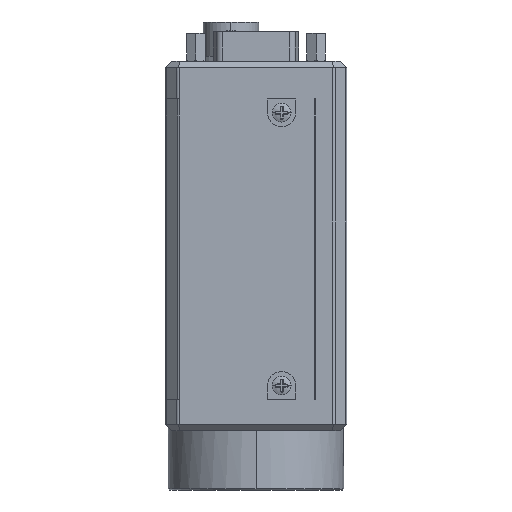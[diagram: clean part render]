
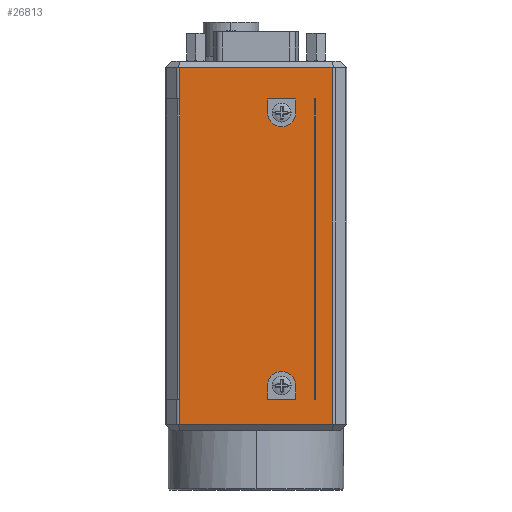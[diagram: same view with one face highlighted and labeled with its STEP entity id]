
A CAD part, left-side view. The second image highlights one B-rep face of the part: STEP entity #26813.
In plain terms, the highlighted planar face has unit normal (-1, 0, 0).
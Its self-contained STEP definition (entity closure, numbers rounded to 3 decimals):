
#2100=DIRECTION('',(0.,-1.,0.));
#2101=VECTOR('',#2100,0.108);
#2102=CARTESIAN_POINT('',(-22.,12.293,53.));
#2103=LINE('',#2102,#2101);
#2180=DIRECTION('',(0.,1.,0.));
#2181=VECTOR('',#2180,0.108);
#2182=CARTESIAN_POINT('',(-22.,12.185,5.));
#2183=LINE('',#2182,#2181);
#2254=DIRECTION('',(0.,0.,-1.));
#2255=VECTOR('',#2254,48.);
#2256=CARTESIAN_POINT('',(-22.,12.185,53.));
#2257=LINE('',#2256,#2255);
#2258=DIRECTION('',(0.,1.,0.));
#2259=VECTOR('',#2258,24.586);
#2260=CARTESIAN_POINT('',(-22.,-12.293,1.));
#2261=LINE('',#2260,#2259);
#2262=CARTESIAN_POINT('',(-22.,-4.1,7.2));
#2263=DIRECTION('',(-1.,0.,0.));
#2264=DIRECTION('',(0.,-1.,0.));
#2265=AXIS2_PLACEMENT_3D('',#2262,#2263,#2264);
#2267=CARTESIAN_POINT('',(-22.,-4.1,7.2));
#2268=DIRECTION('',(-1.,0.,0.));
#2269=DIRECTION('',(0.,0.,1.));
#2270=AXIS2_PLACEMENT_3D('',#2267,#2268,#2269);
#2272=DIRECTION('',(0.,0.,-1.));
#2273=VECTOR('',#2272,48.);
#2274=CARTESIAN_POINT('',(-22.,-9.4,53.));
#2275=LINE('',#2274,#2273);
#2276=DIRECTION('',(0.,0.,1.));
#2277=VECTOR('',#2276,2.2);
#2278=CARTESIAN_POINT('',(-22.,-6.35,50.8));
#2279=LINE('',#2278,#2277);
#2280=DIRECTION('',(0.,0.,-1.));
#2281=VECTOR('',#2280,2.2);
#2282=CARTESIAN_POINT('',(-22.,-1.85,53.));
#2283=LINE('',#2282,#2281);
#2284=CARTESIAN_POINT('',(-22.,-4.1,50.8));
#2285=DIRECTION('',(-1.,0.,0.));
#2286=DIRECTION('',(0.,1.,0.));
#2287=AXIS2_PLACEMENT_3D('',#2284,#2285,#2286);
#2289=CARTESIAN_POINT('',(-22.,-4.1,50.8));
#2290=DIRECTION('',(-1.,0.,0.));
#2291=DIRECTION('',(0.,0.,-1.));
#2292=AXIS2_PLACEMENT_3D('',#2289,#2290,#2291);
#2294=DIRECTION('',(0.,0.,1.));
#2295=VECTOR('',#2294,57.);
#2296=CARTESIAN_POINT('',(-22.,-12.293,1.));
#2297=LINE('',#2296,#2295);
#2331=DIRECTION('',(0.,1.,0.));
#2332=VECTOR('',#2331,24.586);
#2333=CARTESIAN_POINT('',(-22.,-12.293,58.));
#2334=LINE('',#2333,#2332);
#2339=DIRECTION('',(0.,0.,-1.));
#2340=VECTOR('',#2339,5.);
#2341=CARTESIAN_POINT('',(-22.,12.293,58.));
#2342=LINE('',#2341,#2340);
#3059=DIRECTION('',(0.,0.,-1.));
#3060=VECTOR('',#3059,4.);
#3061=CARTESIAN_POINT('',(-22.,12.293,5.));
#3062=LINE('',#3061,#3060);
#6078=DIRECTION('',(0.,1.,0.));
#6079=VECTOR('',#6078,0.1);
#6080=CARTESIAN_POINT('',(-22.,-9.5,5.));
#6081=LINE('',#6080,#6079);
#6201=DIRECTION('',(0.,-1.,0.));
#6202=VECTOR('',#6201,0.1);
#6203=CARTESIAN_POINT('',(-22.,-9.4,53.));
#6204=LINE('',#6203,#6202);
#6233=DIRECTION('',(0.,0.,-1.));
#6234=VECTOR('',#6233,48.);
#6235=CARTESIAN_POINT('',(-22.,-9.5,53.));
#6236=LINE('',#6235,#6234);
#11192=DIRECTION('',(0.,1.,0.));
#11193=VECTOR('',#11192,4.5);
#11194=CARTESIAN_POINT('',(-22.,-6.35,5.));
#11195=LINE('',#11194,#11193);
#11204=DIRECTION('',(0.,0.,-1.));
#11205=VECTOR('',#11204,2.2);
#11206=CARTESIAN_POINT('',(-22.,-6.35,7.2));
#11207=LINE('',#11206,#11205);
#11236=DIRECTION('',(0.,0.,1.));
#11237=VECTOR('',#11236,2.2);
#11238=CARTESIAN_POINT('',(-22.,-1.85,5.));
#11239=LINE('',#11238,#11237);
#12021=DIRECTION('',(0.,-1.,0.));
#12022=VECTOR('',#12021,4.5);
#12023=CARTESIAN_POINT('',(-22.,-1.85,53.));
#12024=LINE('',#12023,#12022);
#19573=CARTESIAN_POINT('',(-22.,12.293,53.));
#19574=VERTEX_POINT('',#19573);
#19575=CARTESIAN_POINT('',(-22.,12.185,53.));
#19576=VERTEX_POINT('',#19575);
#19582=CARTESIAN_POINT('',(-22.,-6.35,53.));
#19584=VERTEX_POINT('',#19582);
#19587=CARTESIAN_POINT('',(-22.,-1.85,53.));
#19588=VERTEX_POINT('',#19587);
#19637=CARTESIAN_POINT('',(-22.,-9.4,53.));
#19638=VERTEX_POINT('',#19637);
#19639=CARTESIAN_POINT('',(-22.,-9.5,53.));
#19640=VERTEX_POINT('',#19639);
#19723=CARTESIAN_POINT('',(-22.,12.185,5.));
#19724=VERTEX_POINT('',#19723);
#19725=CARTESIAN_POINT('',(-22.,12.293,5.));
#19726=VERTEX_POINT('',#19725);
#19752=CARTESIAN_POINT('',(-22.,-6.35,5.));
#19754=VERTEX_POINT('',#19752);
#19755=CARTESIAN_POINT('',(-22.,-1.85,5.));
#19756=VERTEX_POINT('',#19755);
#19829=CARTESIAN_POINT('',(-22.,-9.5,5.));
#19830=VERTEX_POINT('',#19829);
#19831=CARTESIAN_POINT('',(-22.,-9.4,5.));
#19832=VERTEX_POINT('',#19831);
#19903=CARTESIAN_POINT('',(-22.,-12.293,1.));
#19904=CARTESIAN_POINT('',(-22.,-12.293,58.));
#19905=VERTEX_POINT('',#19903);
#19906=VERTEX_POINT('',#19904);
#19907=CARTESIAN_POINT('',(-22.,12.293,1.));
#19908=VERTEX_POINT('',#19907);
#19909=CARTESIAN_POINT('',(-22.,12.293,58.));
#19910=VERTEX_POINT('',#19909);
#19911=CARTESIAN_POINT('',(-22.,-6.35,7.2));
#19912=VERTEX_POINT('',#19911);
#19913=CARTESIAN_POINT('',(-22.,-4.1,9.45));
#19914=VERTEX_POINT('',#19913);
#19915=CARTESIAN_POINT('',(-22.,-1.85,7.2));
#19916=VERTEX_POINT('',#19915);
#19917=CARTESIAN_POINT('',(-22.,-6.35,50.8));
#19918=VERTEX_POINT('',#19917);
#19919=CARTESIAN_POINT('',(-22.,-1.85,50.8));
#19920=VERTEX_POINT('',#19919);
#19921=CARTESIAN_POINT('',(-22.,-4.1,48.55));
#19922=VERTEX_POINT('',#19921);
#26759=CARTESIAN_POINT('',(-22.,0.,3.));
#26760=DIRECTION('',(1.,0.,0.));
#26761=DIRECTION('',(0.,-1.,0.));
#26762=AXIS2_PLACEMENT_3D('',#26759,#26760,#26761);
#26763=PLANE('',#26762);
#26765=ORIENTED_EDGE('',*,*,#26764,.F.);
#26767=ORIENTED_EDGE('',*,*,#26766,.T.);
#26769=ORIENTED_EDGE('',*,*,#26768,.F.);
#26770=ORIENTED_EDGE('',*,*,#26686,.F.);
#26771=ORIENTED_EDGE('',*,*,#26754,.F.);
#26772=ORIENTED_EDGE('',*,*,#26629,.F.);
#26774=ORIENTED_EDGE('',*,*,#26773,.F.);
#26776=ORIENTED_EDGE('',*,*,#26775,.F.);
#26777=EDGE_LOOP('',(#26765,#26767,#26769,#26770,#26771,#26772,#26774,#26776));
#26778=FACE_OUTER_BOUND('',#26777,.F.);
#26780=ORIENTED_EDGE('',*,*,#26779,.F.);
#26782=ORIENTED_EDGE('',*,*,#26781,.F.);
#26784=ORIENTED_EDGE('',*,*,#26783,.T.);
#26786=ORIENTED_EDGE('',*,*,#26785,.T.);
#26788=ORIENTED_EDGE('',*,*,#26787,.F.);
#26789=EDGE_LOOP('',(#26780,#26782,#26784,#26786,#26788));
#26790=FACE_BOUND('',#26789,.F.);
#26792=ORIENTED_EDGE('',*,*,#26791,.F.);
#26794=ORIENTED_EDGE('',*,*,#26793,.F.);
#26796=ORIENTED_EDGE('',*,*,#26795,.F.);
#26798=ORIENTED_EDGE('',*,*,#26797,.T.);
#26799=EDGE_LOOP('',(#26792,#26794,#26796,#26798));
#26800=FACE_BOUND('',#26799,.F.);
#26802=ORIENTED_EDGE('',*,*,#26801,.T.);
#26804=ORIENTED_EDGE('',*,*,#26803,.F.);
#26806=ORIENTED_EDGE('',*,*,#26805,.T.);
#26808=ORIENTED_EDGE('',*,*,#26807,.T.);
#26810=ORIENTED_EDGE('',*,*,#26809,.T.);
#26811=EDGE_LOOP('',(#26802,#26804,#26806,#26808,#26810));
#26812=FACE_BOUND('',#26811,.F.);
#26813=ADVANCED_FACE('',(#26778,#26790,#26800,#26812),#26763,.F.);
#2266=CIRCLE('',#2265,2.25);
#2271=CIRCLE('',#2270,2.25);
#2288=CIRCLE('',#2287,2.25);
#2293=CIRCLE('',#2292,2.25);
#26629=EDGE_CURVE('',#19574,#19576,#2103,.T.);
#26686=EDGE_CURVE('',#19724,#19726,#2183,.T.);
#26754=EDGE_CURVE('',#19576,#19724,#2257,.T.);
#26764=EDGE_CURVE('',#19905,#19906,#2297,.T.);
#26766=EDGE_CURVE('',#19905,#19908,#2261,.T.);
#26768=EDGE_CURVE('',#19726,#19908,#3062,.T.);
#26773=EDGE_CURVE('',#19910,#19574,#2342,.T.);
#26775=EDGE_CURVE('',#19906,#19910,#2334,.T.);
#26779=EDGE_CURVE('',#19754,#19756,#11195,.T.);
#26781=EDGE_CURVE('',#19912,#19754,#11207,.T.);
#26783=EDGE_CURVE('',#19912,#19914,#2266,.T.);
#26785=EDGE_CURVE('',#19914,#19916,#2271,.T.);
#26787=EDGE_CURVE('',#19756,#19916,#11239,.T.);
#26791=EDGE_CURVE('',#19830,#19832,#6081,.T.);
#26793=EDGE_CURVE('',#19640,#19830,#6236,.T.);
#26795=EDGE_CURVE('',#19638,#19640,#6204,.T.);
#26797=EDGE_CURVE('',#19638,#19832,#2275,.T.);
#26801=EDGE_CURVE('',#19918,#19584,#2279,.T.);
#26803=EDGE_CURVE('',#19588,#19584,#12024,.T.);
#26805=EDGE_CURVE('',#19588,#19920,#2283,.T.);
#26807=EDGE_CURVE('',#19920,#19922,#2288,.T.);
#26809=EDGE_CURVE('',#19922,#19918,#2293,.T.);
